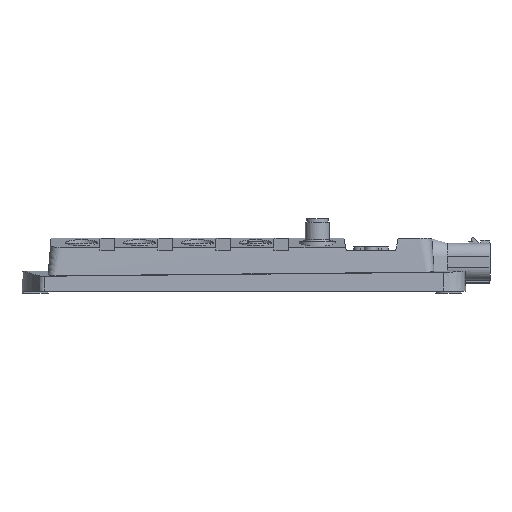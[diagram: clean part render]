
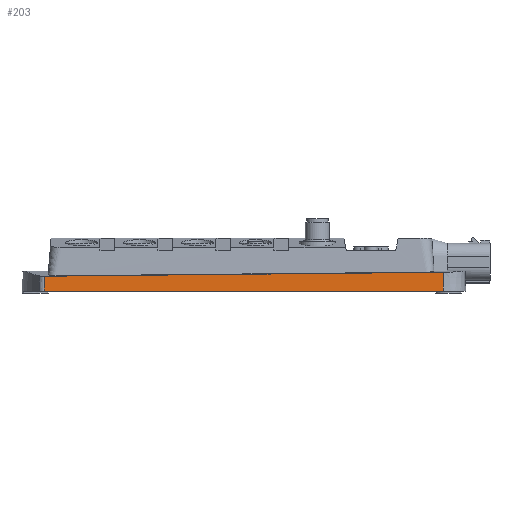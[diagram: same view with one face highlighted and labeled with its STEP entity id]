
A CAD part, left-side view. The second image highlights one B-rep face of the part: STEP entity #203.
In plain terms, the highlighted planar face has unit normal (-0.999, 0, 0.035).
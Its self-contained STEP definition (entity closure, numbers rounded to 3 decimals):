
#203 = ADVANCED_FACE( '', ( #941 ), #942, .T. );
#941 = FACE_OUTER_BOUND( '', #2365, .T. );
#942 = PLANE( '', #2366 );
#2365 = EDGE_LOOP( '', ( #4445, #4446, #4447, #4448 ) );
#2366 = AXIS2_PLACEMENT_3D( '', #4449, #4450, #4451 );
#4445 = ORIENTED_EDGE( '', *, *, #8367, .F. );
#4446 = ORIENTED_EDGE( '', *, *, #8368, .T. );
#4447 = ORIENTED_EDGE( '', *, *, #8369, .T. );
#4448 = ORIENTED_EDGE( '', *, *, #8370, .T. );
#4449 = CARTESIAN_POINT( '', ( -38., 202.959, 0. ) );
#4450 = DIRECTION( '', ( -0.999, 0., 0.035 ) );
#4451 = DIRECTION( '', ( 0.035, 0., 0.999 ) );
#8367 = EDGE_CURVE( '', #10072, #10073, #10074, .T. );
#8368 = EDGE_CURVE( '', #10072, #10075, #10076, .F. );
#8369 = EDGE_CURVE( '', #10075, #10077, #10078, .T. );
#8370 = EDGE_CURVE( '', #10077, #10073, #10079, .T. );
#10072 = VERTEX_POINT( '', #13143 );
#10073 = VERTEX_POINT( '', #13144 );
#10074 = LINE( '', #13145, #13146 );
#10075 = VERTEX_POINT( '', #13147 );
#10076 = LINE( '', #13148, #13149 );
#10077 = VERTEX_POINT( '', #13150 );
#10078 = LINE( '', #13151, #13152 );
#10079 = LINE( '', #13153, #13154 );
#13143 = CARTESIAN_POINT( '', ( -37.671, 3.45, 9.424 ) );
#13144 = CARTESIAN_POINT( '', ( -38., 3.45, 0. ) );
#13145 = CARTESIAN_POINT( '', ( -38., 3.45, 0. ) );
#13146 = VECTOR( '', #16031, 1000. );
#13147 = CARTESIAN_POINT( '', ( -37.739, 202.959, 7.464 ) );
#13148 = CARTESIAN_POINT( '', ( -37.739, 203.032, 7.463 ) );
#13149 = VECTOR( '', #16032, 1000. );
#13150 = CARTESIAN_POINT( '', ( -38., 202.959, 0. ) );
#13151 = CARTESIAN_POINT( '', ( -38., 202.959, 0. ) );
#13152 = VECTOR( '', #16033, 1000. );
#13153 = CARTESIAN_POINT( '', ( -38., 202.959, 0. ) );
#13154 = VECTOR( '', #16034, 1000. );
#16031 = DIRECTION( '', ( -0.035, 0., -0.999 ) );
#16032 = DIRECTION( '', ( 0., -1., 0.01 ) );
#16033 = DIRECTION( '', ( -0.035, 0., -0.999 ) );
#16034 = DIRECTION( '', ( 0., -1., 0. ) );
